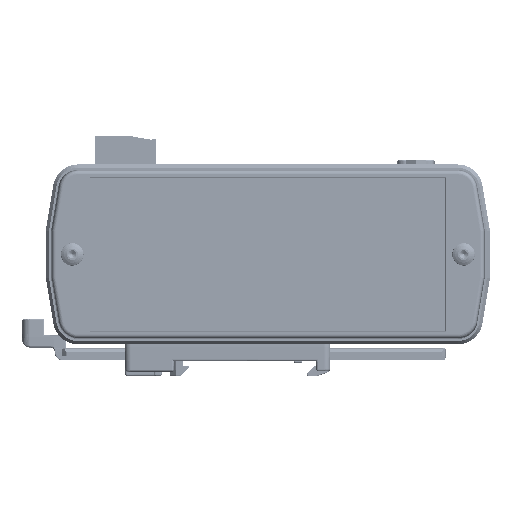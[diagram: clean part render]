
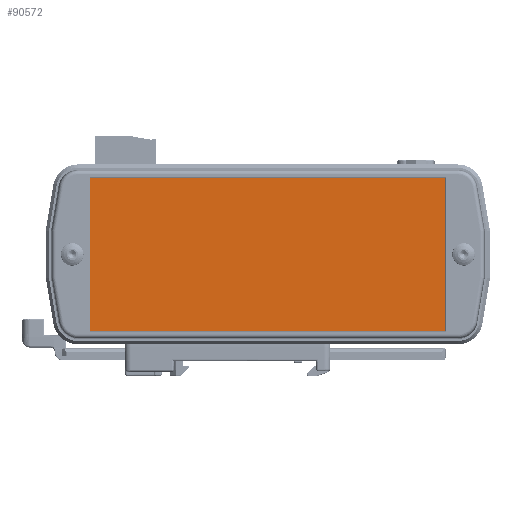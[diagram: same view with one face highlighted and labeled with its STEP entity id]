
A CAD part, left-side view. The second image highlights one B-rep face of the part: STEP entity #90572.
In plain terms, the highlighted planar face has unit normal (-1, 0, 0) as drawn and (0, 0, -1) by its records, which use the part's own axes.
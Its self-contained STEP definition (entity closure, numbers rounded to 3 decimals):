
#90572=ADVANCED_FACE('',(#169789),#169791,.F.);
#169789=FACE_BOUND('',#169790,.T.);
#169790=EDGE_LOOP('',(#227643,#227644,#227645,#227646));
#169791=PLANE('',#169792);
#169792=AXIS2_PLACEMENT_3D('',#169793,#169794,#169795);
#169793=CARTESIAN_POINT('',(51.304,84.684,4.));
#169794=DIRECTION('',(-0.,0.,1.));
#169795=DIRECTION('',(1.,0.,0.));
#227643=ORIENTED_EDGE('',*,*,#257061,.F.);
#227644=ORIENTED_EDGE('',*,*,#257063,.F.);
#227645=ORIENTED_EDGE('',*,*,#257064,.F.);
#227646=ORIENTED_EDGE('',*,*,#257059,.F.);
#257059=EDGE_CURVE('',#301890,#301888,#301892,.T.);
#257061=EDGE_CURVE('',#301893,#301890,#301895,.T.);
#257063=EDGE_CURVE('',#301896,#301893,#301898,.T.);
#257064=EDGE_CURVE('',#301888,#301896,#301899,.T.);
#301888=VERTEX_POINT('',#422132);
#301890=VERTEX_POINT('',#422136);
#301892=LINE('',#422140,#422141);
#301893=VERTEX_POINT('',#422143);
#301895=LINE('',#422147,#422148);
#301896=VERTEX_POINT('',#422150);
#301898=LINE('',#422154,#422155);
#301899=LINE('',#422157,#422158);
#422132=CARTESIAN_POINT('',(7.285,65.665,4.));
#422136=CARTESIAN_POINT('',(95.323,65.665,4.));
#422140=CARTESIAN_POINT('',(95.323,65.665,4.));
#422141=VECTOR('',#422142,1.);
#422142=DIRECTION('',(-1.,0.,0.));
#422143=CARTESIAN_POINT('',(95.323,103.702,4.));
#422147=CARTESIAN_POINT('',(95.323,103.702,4.));
#422148=VECTOR('',#422149,1.);
#422149=DIRECTION('',(0.,-1.,0.));
#422150=CARTESIAN_POINT('',(7.285,103.702,4.));
#422154=CARTESIAN_POINT('',(7.285,103.702,4.));
#422155=VECTOR('',#422156,1.);
#422156=DIRECTION('',(1.,0.,0.));
#422157=CARTESIAN_POINT('',(7.285,65.665,4.));
#422158=VECTOR('',#422159,1.);
#422159=DIRECTION('',(0.,1.,0.));
